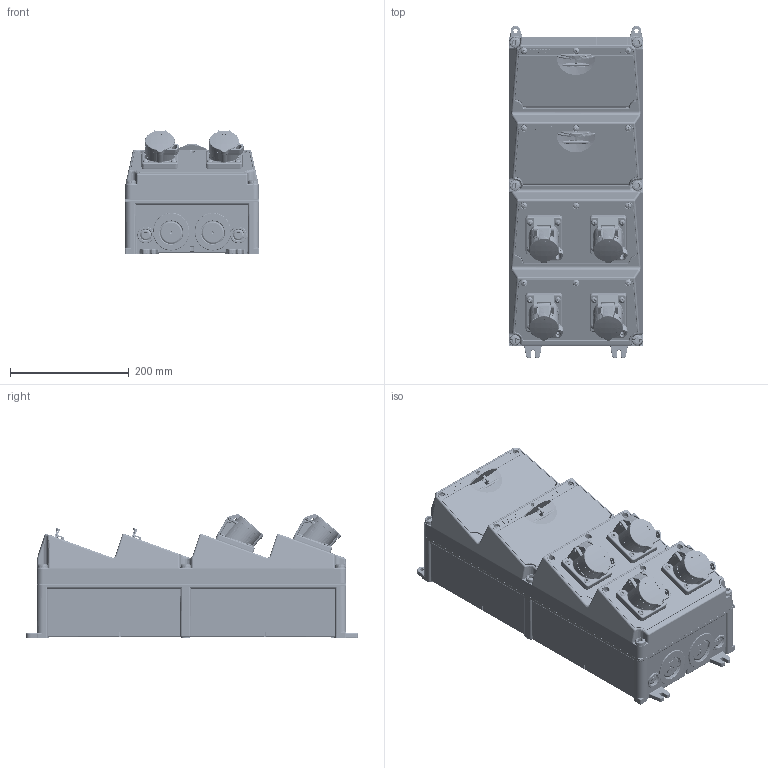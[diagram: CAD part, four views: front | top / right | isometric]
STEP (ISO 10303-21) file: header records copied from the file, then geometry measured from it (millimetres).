
FILE_DESCRIPTION((''),'2;1');
FILE_NAME('941265-1_ASM_1_ASM','2018-06-12T',('prakek'),('MENNEKES'),'PRO/ENGINEER BY PARAMETRIC TECHNOLOGY CORPORATION, 2015440','PRO/ENGINEER BY PARAMETRIC TECHNOLOGY CORPORATION, 2015440','');
FILE_SCHEMA(('AUTOMOTIVE_DESIGN { 1 0 10303 214 1 1 1 1 }'));
Products named in the file (8): 4-4_SW_O_GRAU_1; FI_2POL_2TE_1; LS_1POL_1TE_1; MP_LEER_GRAU_1; MP_FEN10_44_OBEN_GRAU_1; BAUTEIL_DUMMY__1; FL68X62_CEE_16_3_44_20V_BLAU_1; 941265-1_ASM_1_ASM
Assembly tree (18 placements, depth 2):
  941265-1_ASM_1_ASM
    4-4_SW_O_GRAU_1
    FI_2POL_2TE_1  x4
    LS_1POL_1TE_1  x4
    MP_LEER_GRAU_1  x2
    MP_FEN10_44_OBEN_GRAU_1  x2
    BAUTEIL_DUMMY__1
    FL68X62_CEE_16_3_44_20V_BLAU_1  x4
Bounding box: 225 x 558.2 x 208.38 mm (x, y, z)
Volume: 13322795.9 mm3; surface area: 1451357.4 mm2
Topology: 17 solids, 17 shells, 16859 faces, 46629 edges, 29592 vertices
Faces by surface type: plane 8185, cylinder 4683, bspline 1446, torus 1270, cone 618, sphere 429, extrusion 228
Entity records: 420189 total; most frequent: CARTESIAN_POINT 131432, ORIENTED_EDGE 47802, DIRECTION 41100, EDGE_CURVE 23901, VERTEX_POINT 15180, AXIS2_PLACEMENT_3D 14142, VECTOR 12816, LINE 12705
